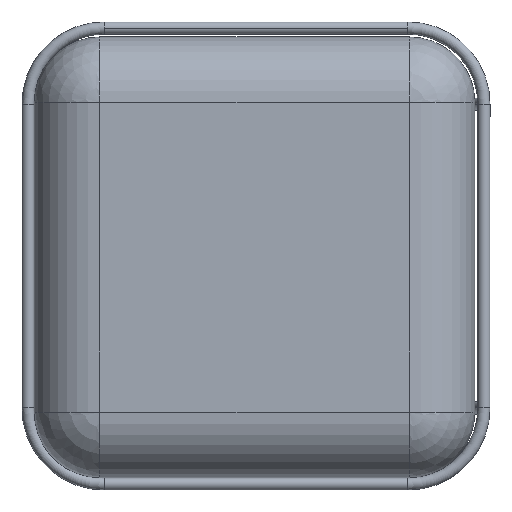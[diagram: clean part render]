
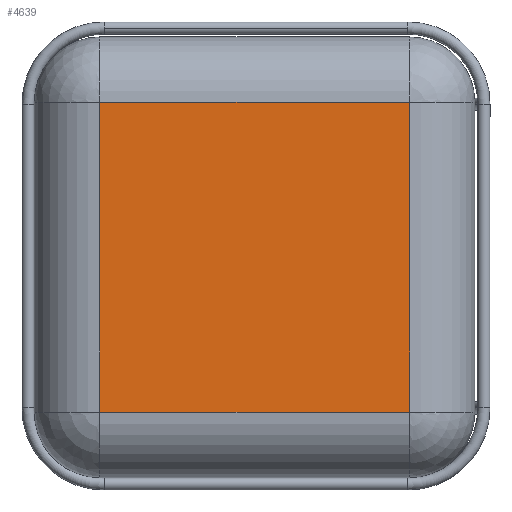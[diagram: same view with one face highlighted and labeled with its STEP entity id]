
A CAD part, top view. The second image highlights one B-rep face of the part: STEP entity #4639.
In plain terms, the highlighted planar face has unit normal (0, 0, 1) as drawn and (0, 1, 0) by its records, which use the part's own axes.
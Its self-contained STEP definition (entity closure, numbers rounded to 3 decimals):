
#119 = EDGE_CURVE ( 'NONE', #3659, #1145, #2778, .T. ) ;
#178 = VECTOR ( 'NONE', #2838, 1000. ) ;
#367 = PLANE ( 'NONE',  #3714 ) ;
#493 = CARTESIAN_POINT ( 'NONE',  ( 296.978, 300.915, 205.9 ) ) ;
#582 = ORIENTED_EDGE ( 'NONE', *, *, #119, .T. ) ;
#761 = FACE_OUTER_BOUND ( 'NONE', #4396, .T. ) ;
#781 = DIRECTION ( 'NONE',  ( 0., 0., 1. ) ) ;
#1145 = VERTEX_POINT ( 'NONE', #3760 ) ;
#1257 = EDGE_CURVE ( 'NONE', #2880, #2293, #3893, .T. ) ;
#1261 = CARTESIAN_POINT ( 'NONE',  ( 210.978, 300.915, -202.1 ) ) ;
#1493 = CARTESIAN_POINT ( 'NONE',  ( -197.022, 300.915, 205.9 ) ) ;
#1654 = ORIENTED_EDGE ( 'NONE', *, *, #2802, .T. ) ;
#2007 = CARTESIAN_POINT ( 'NONE',  ( 210.978, 300.915, -288.1 ) ) ;
#2012 = EDGE_CURVE ( 'NONE', #2293, #3659, #2691, .T. ) ;
#2293 = VERTEX_POINT ( 'NONE', #2377 ) ;
#2377 = CARTESIAN_POINT ( 'NONE',  ( -197.022, 300.915, -202.1 ) ) ;
#2387 = DIRECTION ( 'NONE',  ( 0., 0., -1. ) ) ;
#2460 = VECTOR ( 'NONE', #3525, 1000. ) ;
#2691 = LINE ( 'NONE', #4164, #4343 ) ;
#2778 = LINE ( 'NONE', #493, #178 ) ;
#2802 = EDGE_CURVE ( 'NONE', #1145, #2880, #3590, .T. ) ;
#2838 = DIRECTION ( 'NONE',  ( 1., 0., 0. ) ) ;
#2880 = VERTEX_POINT ( 'NONE', #1261 ) ;
#2926 = ORIENTED_EDGE ( 'NONE', *, *, #1257, .T. ) ;
#3247 = ORIENTED_EDGE ( 'NONE', *, *, #2012, .T. ) ;
#3393 = CARTESIAN_POINT ( 'NONE',  ( 296.978, 300.915, 291.9 ) ) ;
#3433 = CARTESIAN_POINT ( 'NONE',  ( -283.022, 300.915, -202.1 ) ) ;
#3525 = DIRECTION ( 'NONE',  ( -1., 0., 0. ) ) ;
#3590 = LINE ( 'NONE', #2007, #4452 ) ;
#3659 = VERTEX_POINT ( 'NONE', #1493 ) ;
#3714 = AXIS2_PLACEMENT_3D ( 'NONE', #3393, #4885, #4261 ) ;
#3760 = CARTESIAN_POINT ( 'NONE',  ( 210.978, 300.915, 205.9 ) ) ;
#3893 = LINE ( 'NONE', #3433, #2460 ) ;
#4164 = CARTESIAN_POINT ( 'NONE',  ( -197.022, 300.915, 291.9 ) ) ;
#4261 = DIRECTION ( 'NONE',  ( 0., 0., 1. ) ) ;
#4343 = VECTOR ( 'NONE', #781, 1000. ) ;
#4396 = EDGE_LOOP ( 'NONE', ( #3247, #582, #1654, #2926 ) ) ;
#4452 = VECTOR ( 'NONE', #2387, 1000. ) ;
#4639 = ADVANCED_FACE ( 'NONE', ( #761 ), #367, .T. ) ;
#4885 = DIRECTION ( 'NONE',  ( 0., 1., 0. ) ) ;
